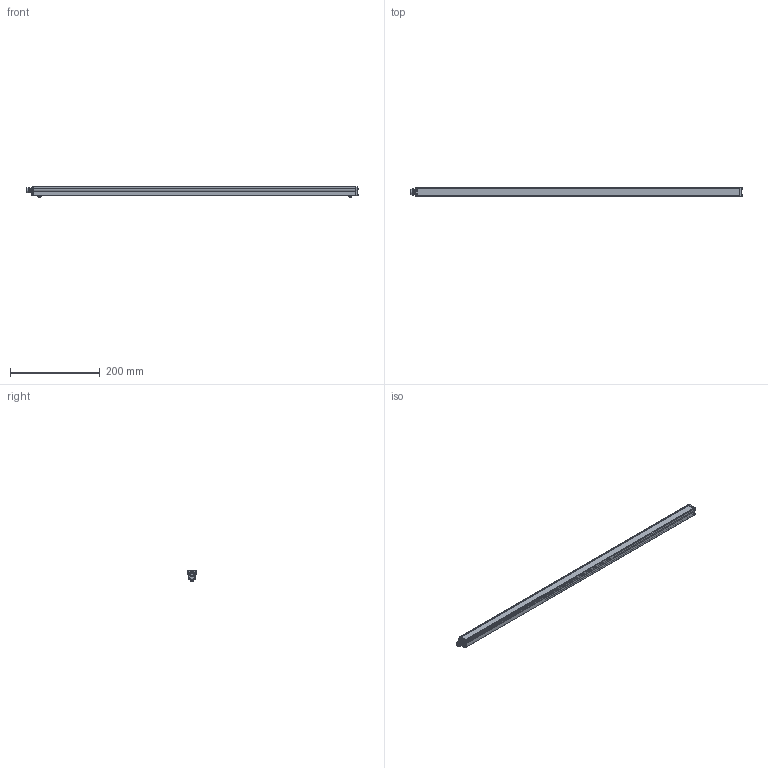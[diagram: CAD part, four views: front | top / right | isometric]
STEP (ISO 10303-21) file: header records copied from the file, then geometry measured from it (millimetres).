
FILE_DESCRIPTION (( 'STEP AP214' ), '1' );
FILE_NAME ('AL126 _NONSEALED__AL12628.stp', '2021-04-29T14:25:17', ( '' ), ( '' ), 'SwSTEP 2.0', 'SolidWorks 2018', '' );
FILE_SCHEMA (( 'AUTOMOTIVE_DESIGN' ));
Length unit declared in the file: inch
Products named in the file (15): 090875; 090876; 090877-XX_090877-28; 10mm Advanced illumination; 10mm Ai; 090889-XX_090889-28; 091052 (116 126); HN-M4_90592A016; AL126 _NONSEALED__AL12628; 10mm Swish_Default<As Machined>; 10mm Label (116 126)_Default<As Machined>; BH-M4x6; 091064_Model_Dome Fittings_Thread Type and Size(Dome)_M10 x 1.5_Hazardous Location-Explosive Proof(ATEX and EExe Versions)_No_; 093469_093469; 093474_093474
Assembly tree (24 placements, depth 3):
  AL126 _NONSEALED__AL12628
    090889-XX_090889-28
    090877-XX_090877-28
    090875
    090876
    093474_093474  x8
    093469_093469  x2
    091064_Model_Dome Fittings_Thread Type and Size(Dome)_M10 x 1.5_Hazardous Location-Explosive Proof(ATEX and EExe Versions)_No_
    HN-M4_90592A016  x2
    BH-M4x6  x2
    091052 (116 126)
      10mm Label (116 126)_Default<As Machined>
      10mm Ai
      10mm Swish_Default<As Machined>
      10mm Advanced illumination
Bounding box: 740.33 x 20.02 x 24.1 mm (x, y, z)
Volume: 99430.7 mm3; surface area: 141908.5 mm2
Topology: 48 solids, 48 shells, 1877 faces, 4840 edges, 3010 vertices
Faces by surface type: cylinder 934, plane 401, cone 362, bspline 120, torus 60
Entity records: 30293 total; most frequent: CARTESIAN_POINT 10456, ORIENTED_EDGE 4076, DIRECTION 3580, EDGE_CURVE 2038, VERTEX_POINT 1298, AXIS2_PLACEMENT_3D 1276, VECTOR 1028, LINE 1028
